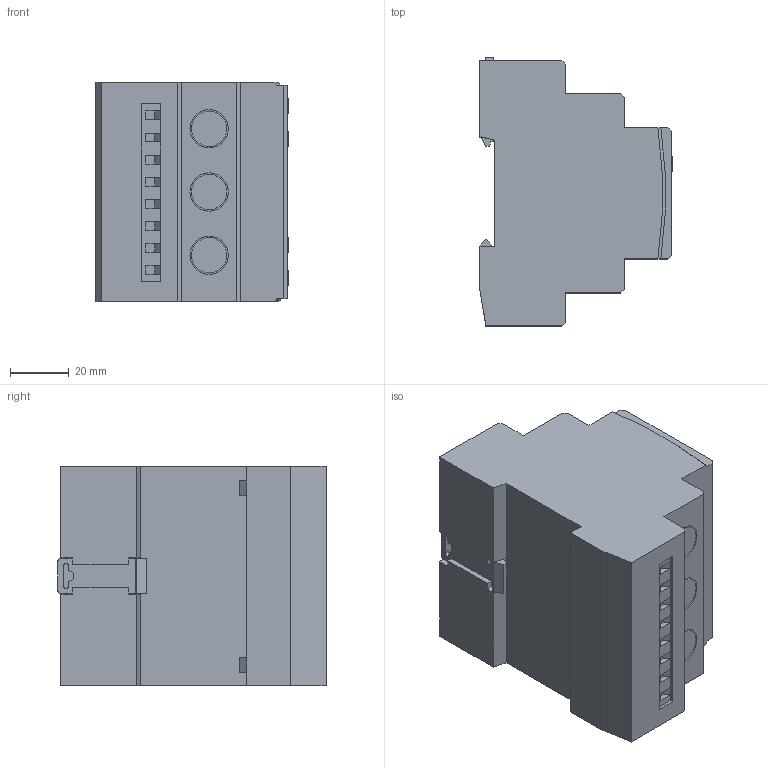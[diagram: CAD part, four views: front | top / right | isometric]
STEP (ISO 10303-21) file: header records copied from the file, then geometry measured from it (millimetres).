
FILE_DESCRIPTION (( 'STEP AP203' ), '1' );
FILE_NAME ('Ýëåêòðîííûé áëîê óïðàâëåíèÿ ÀÂÐ ETS-2ZC.STEP', '2021-11-25T20:46:36', ( '' ), ( '' ), 'SwSTEP 2.0', 'SolidWorks 2017', '' );
FILE_SCHEMA (( 'CONFIG_CONTROL_DESIGN' ));
Length unit declared in the file: millimetre
Products named in the file (1): Ýëåêòðîííûé áëîê óïðàâëåíèÿ ÀÂÐ ETS-2ZC
Bounding box: 65.2 x 91 x 74.5 mm (x, y, z)
Volume: 329418.4 mm3; surface area: 36138.6 mm2
Topology: 21 solids, 21 shells, 736 faces, 1872 edges, 1236 vertices
Faces by surface type: plane 497, cylinder 208, torus 24, sphere 4, cone 3
Entity records: 22211 total; most frequent: CARTESIAN_POINT 3845, DIRECTION 3812, ORIENTED_EDGE 3728, EDGE_CURVE 1864, VECTOR 1382, LINE 1382, VERTEX_POINT 1232, AXIS2_PLACEMENT_3D 1215
